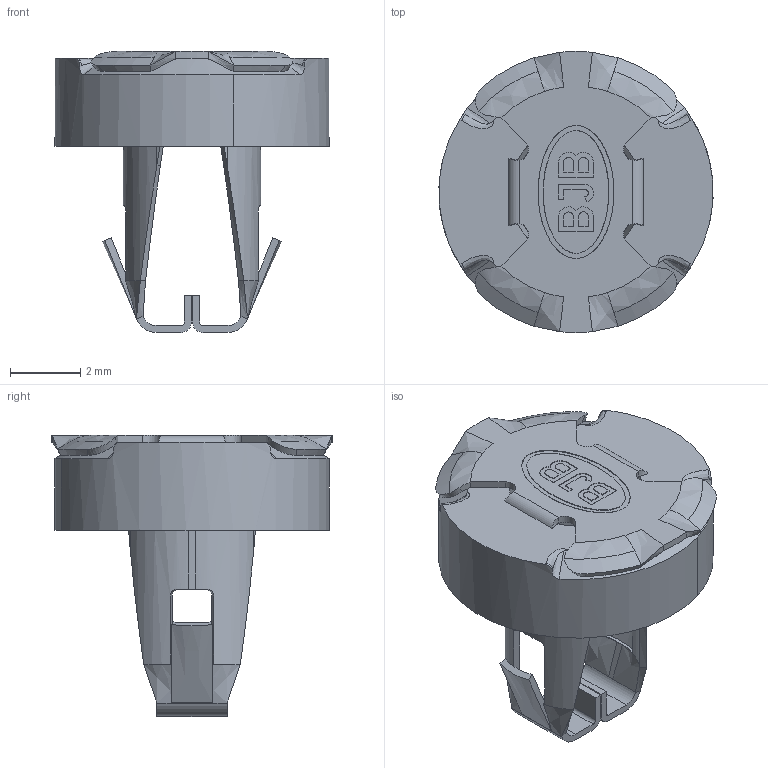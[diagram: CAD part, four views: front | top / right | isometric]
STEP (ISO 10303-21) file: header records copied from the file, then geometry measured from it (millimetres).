
FILE_DESCRIPTION((' '),'1');
FILE_NAME('01VY712Y02.stp','2013-10-11 T07:46:14',(''),(''),'STEP Interface 2013.192 by CT CoreTechnologie','3D_Evolution2013.192 by CT CoreTechnologie','');
FILE_SCHEMA(('AP203_CONFIGURATION_CONTROLLED_3D_DESIGN_OF_MECHANICAL_PARTS_AND_ASSEMBLIES_MIM_LF'));
Length unit declared in the file: millimetre
Products named in the file (1): 01VY712Y02
Bounding box: 7.79 x 7.99 x 7.99 mm (x, y, z)
Volume: 104.4 mm3; surface area: 314.9 mm2
Topology: 1 solids, 1 shells, 261 faces, 724 edges, 460 vertices
Faces by surface type: plane 123, bspline 94, cylinder 44
Entity records: 13476 total; most frequent: CARTESIAN_POINT 4866, ORIENTED_EDGE 1448, DIRECTION 1248, EDGE_CURVE 724, VECTOR 484, LINE 484, VERTEX_POINT 460, AXIS2_PLACEMENT_3D 382
